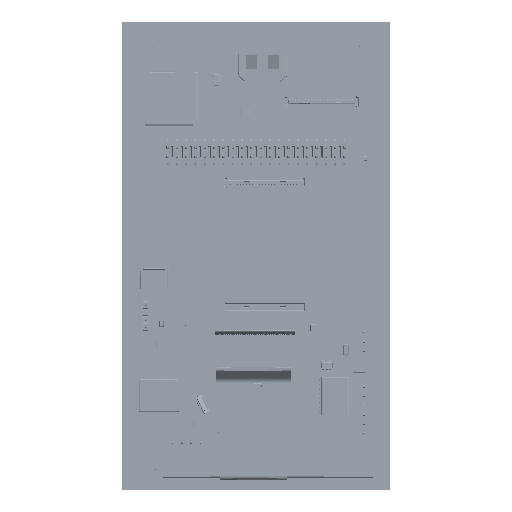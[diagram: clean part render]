
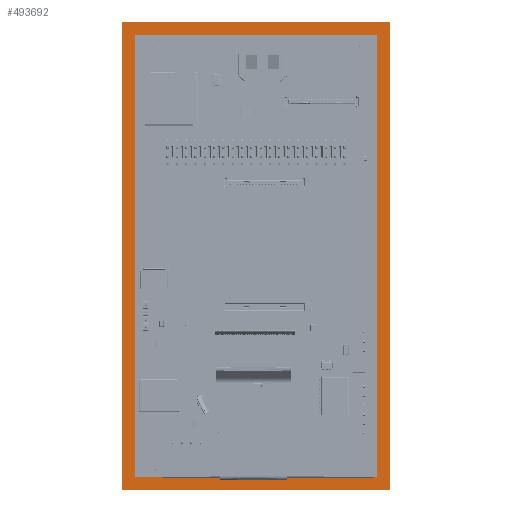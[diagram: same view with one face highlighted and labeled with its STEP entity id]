
A CAD part, top view. The second image highlights one B-rep face of the part: STEP entity #493692.
In plain terms, the highlighted planar face has unit normal (0, 0, 1).
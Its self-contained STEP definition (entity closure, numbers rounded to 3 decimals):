
#2667 = VERTEX_POINT ( 'NONE', #444690 ) ;
#11518 = LINE ( 'NONE', #352923, #662477 ) ;
#12286 = VERTEX_POINT ( 'NONE', #684603 ) ;
#13002 = DIRECTION ( 'NONE',  ( 0., 0., -1. ) ) ;
#20469 = DIRECTION ( 'NONE',  ( 0., -1., 0. ) ) ;
#25512 = LINE ( 'NONE', #683800, #384949 ) ;
#28146 = DIRECTION ( 'NONE',  ( 0., -1., 0. ) ) ;
#29556 = ORIENTED_EDGE ( 'NONE', *, *, #141131, .T. ) ;
#46878 = CIRCLE ( 'NONE', #166001, 0.5 ) ;
#53270 = EDGE_CURVE ( 'NONE', #535708, #544869, #171602, .T. ) ;
#53941 = PLANE ( 'NONE',  #282135 ) ;
#57056 = EDGE_LOOP ( 'NONE', ( #280674, #250995, #873751, #806478 ) ) ;
#59030 = CARTESIAN_POINT ( 'NONE',  ( 20.711, -36.213, -16.11 ) ) ;
#69514 = ORIENTED_EDGE ( 'NONE', *, *, #121937, .T. ) ;
#86331 = DIRECTION ( 'NONE',  ( 0., 0., 1. ) ) ;
#90553 = CARTESIAN_POINT ( 'NONE',  ( 20.711, 75.937, -16.11 ) ) ;
#92181 = VERTEX_POINT ( 'NONE', #125689 ) ;
#96565 = EDGE_CURVE ( 'NONE', #147246, #442547, #296583, .T. ) ;
#96869 = DIRECTION ( 'NONE',  ( -1., 0., 0. ) ) ;
#109731 = LINE ( 'NONE', #259158, #391613 ) ;
#121937 = EDGE_CURVE ( 'NONE', #2667, #809320, #11518, .T. ) ;
#125689 = CARTESIAN_POINT ( 'NONE',  ( 25.811, -48.063, -16.11 ) ) ;
#141131 = EDGE_CURVE ( 'NONE', #12286, #2667, #46878, .T. ) ;
#142385 = DIRECTION ( 'NONE',  ( 0., -1., 0. ) ) ;
#145598 = ORIENTED_EDGE ( 'NONE', *, *, #227634, .F. ) ;
#147246 = VERTEX_POINT ( 'NONE', #599843 ) ;
#154772 = AXIS2_PLACEMENT_3D ( 'NONE', #549660, #829799, #194513 ) ;
#166001 = AXIS2_PLACEMENT_3D ( 'NONE', #870750, #86331, #436959 ) ;
#171602 = LINE ( 'NONE', #517770, #513647 ) ;
#172712 = LINE ( 'NONE', #607206, #628209 ) ;
#194513 = DIRECTION ( 'NONE',  ( -1., 0., 0. ) ) ;
#203503 = CARTESIAN_POINT ( 'NONE',  ( -46.489, -48.063, -16.11 ) ) ;
#217519 = CARTESIAN_POINT ( 'NONE',  ( 20.711, 74.157, -16.11 ) ) ;
#218562 = VECTOR ( 'NONE', #867269, 1000. ) ;
#220738 = VERTEX_POINT ( 'NONE', #383763 ) ;
#221470 = VERTEX_POINT ( 'NONE', #575528 ) ;
#227634 = EDGE_CURVE ( 'NONE', #220738, #445121, #870756, .T. ) ;
#235712 = EDGE_CURVE ( 'NONE', #445121, #472299, #527276, .T. ) ;
#240880 = DIRECTION ( 'NONE',  ( 0., -1., 0. ) ) ;
#241186 = DIRECTION ( 'NONE',  ( -1., 0., 0. ) ) ;
#244491 = VECTOR ( 'NONE', #240880, 1000. ) ;
#249760 = CARTESIAN_POINT ( 'NONE',  ( 22.711, -36.213, -16.11 ) ) ;
#250995 = ORIENTED_EDGE ( 'NONE', *, *, #96565, .T. ) ;
#252221 = CARTESIAN_POINT ( 'NONE',  ( 26.311, -47.563, -16.11 ) ) ;
#254802 = FACE_OUTER_BOUND ( 'NONE', #718391, .T. ) ;
#259158 = CARTESIAN_POINT ( 'NONE',  ( 22.711, 74.187, -16.11 ) ) ;
#280674 = ORIENTED_EDGE ( 'NONE', *, *, #402669, .T. ) ;
#280935 = ORIENTED_EDGE ( 'NONE', *, *, #752443, .F. ) ;
#282135 = AXIS2_PLACEMENT_3D ( 'NONE', #343485, #628224, #819875 ) ;
#285176 = VECTOR ( 'NONE', #590598, 1000. ) ;
#293192 = CARTESIAN_POINT ( 'NONE',  ( -41.389, 75.937, -16.11 ) ) ;
#296583 = LINE ( 'NONE', #301177, #285176 ) ;
#301177 = CARTESIAN_POINT ( 'NONE',  ( 22.711, -36.243, -16.11 ) ) ;
#309178 = CARTESIAN_POINT ( 'NONE',  ( 22.711, -48.063, -16.11 ) ) ;
#315455 = CIRCLE ( 'NONE', #344855, 0.5 ) ;
#315538 = DIRECTION ( 'NONE',  ( -1., 0., 0. ) ) ;
#320342 = LINE ( 'NONE', #521365, #244491 ) ;
#327434 = ORIENTED_EDGE ( 'NONE', *, *, #403982, .F. ) ;
#328929 = DIRECTION ( 'NONE',  ( -1., 0., 0. ) ) ;
#334952 = ORIENTED_EDGE ( 'NONE', *, *, #235712, .F. ) ;
#339658 = EDGE_CURVE ( 'NONE', #826775, #535708, #320342, .T. ) ;
#343485 = CARTESIAN_POINT ( 'NONE',  ( 22.711, 75.937, -16.11 ) ) ;
#344855 = AXIS2_PLACEMENT_3D ( 'NONE', #638738, #526262, #241186 ) ;
#349042 = ORIENTED_EDGE ( 'NONE', *, *, #453917, .F. ) ;
#352923 = CARTESIAN_POINT ( 'NONE',  ( -46.989, 75.937, -16.11 ) ) ;
#355607 = VERTEX_POINT ( 'NONE', #802811 ) ;
#364200 = CARTESIAN_POINT ( 'NONE',  ( -41.389, -36.243, -16.11 ) ) ;
#368824 = VERTEX_POINT ( 'NONE', #203503 ) ;
#377983 = CARTESIAN_POINT ( 'NONE',  ( -41.389, 74.157, -16.11 ) ) ;
#379391 = DIRECTION ( 'NONE',  ( -1., 0., 0. ) ) ;
#383763 = CARTESIAN_POINT ( 'NONE',  ( 25.811, 79.537, -16.11 ) ) ;
#384949 = VECTOR ( 'NONE', #328929, 1000. ) ;
#391613 = VECTOR ( 'NONE', #315538, 1000. ) ;
#402669 = EDGE_CURVE ( 'NONE', #802335, #147246, #809483, .T. ) ;
#403982 = EDGE_CURVE ( 'NONE', #826775, #355607, #109731, .T. ) ;
#422740 = ORIENTED_EDGE ( 'NONE', *, *, #676634, .T. ) ;
#426351 = EDGE_CURVE ( 'NONE', #355607, #544869, #172712, .T. ) ;
#436959 = DIRECTION ( 'NONE',  ( -1., 0., 0. ) ) ;
#442547 = VERTEX_POINT ( 'NONE', #364200 ) ;
#444690 = CARTESIAN_POINT ( 'NONE',  ( -46.989, 79.037, -16.11 ) ) ;
#445121 = VERTEX_POINT ( 'NONE', #687314 ) ;
#452700 = VECTOR ( 'NONE', #751125, 1000. ) ;
#453917 = EDGE_CURVE ( 'NONE', #368824, #809320, #672833, .T. ) ;
#455880 = ORIENTED_EDGE ( 'NONE', *, *, #53270, .T. ) ;
#472299 = VERTEX_POINT ( 'NONE', #252221 ) ;
#493692 = ADVANCED_FACE ( 'NONE', ( #609820, #903581, #254802 ), #53941, .F. ) ;
#494618 = ORIENTED_EDGE ( 'NONE', *, *, #810862, .F. ) ;
#513647 = VECTOR ( 'NONE', #886177, 1000. ) ;
#517770 = CARTESIAN_POINT ( 'NONE',  ( 22.711, 74.157, -16.11 ) ) ;
#521365 = CARTESIAN_POINT ( 'NONE',  ( 20.711, 75.937, -16.11 ) ) ;
#522223 = VECTOR ( 'NONE', #379391, 1000. ) ;
#526262 = DIRECTION ( 'NONE',  ( 0., 0., -1. ) ) ;
#527276 = LINE ( 'NONE', #531846, #452700 ) ;
#531846 = CARTESIAN_POINT ( 'NONE',  ( 26.311, 75.937, -16.11 ) ) ;
#535708 = VERTEX_POINT ( 'NONE', #217519 ) ;
#544869 = VERTEX_POINT ( 'NONE', #377983 ) ;
#549660 = CARTESIAN_POINT ( 'NONE',  ( 25.811, 79.037, -16.11 ) ) ;
#554457 = ORIENTED_EDGE ( 'NONE', *, *, #339658, .T. ) ;
#556201 = LINE ( 'NONE', #293192, #218562 ) ;
#575528 = CARTESIAN_POINT ( 'NONE',  ( -41.389, -36.213, -16.11 ) ) ;
#584399 = VECTOR ( 'NONE', #754147, 1000. ) ;
#590598 = DIRECTION ( 'NONE',  ( -1., 0., 0. ) ) ;
#599843 = CARTESIAN_POINT ( 'NONE',  ( 20.711, -36.243, -16.11 ) ) ;
#607206 = CARTESIAN_POINT ( 'NONE',  ( -41.389, 75.937, -16.11 ) ) ;
#609415 = LINE ( 'NONE', #249760, #584399 ) ;
#609820 = FACE_BOUND ( 'NONE', #727895, .T. ) ;
#628209 = VECTOR ( 'NONE', #28146, 1000. ) ;
#628224 = DIRECTION ( 'NONE',  ( 0., 0., -1. ) ) ;
#638738 = CARTESIAN_POINT ( 'NONE',  ( 25.811, -47.563, -16.11 ) ) ;
#659446 = LINE ( 'NONE', #309178, #522223 ) ;
#662477 = VECTOR ( 'NONE', #142385, 1000. ) ;
#671234 = CARTESIAN_POINT ( 'NONE',  ( -46.489, -47.563, -16.11 ) ) ;
#672833 = CIRCLE ( 'NONE', #895897, 0.5 ) ;
#676634 = EDGE_CURVE ( 'NONE', #220738, #12286, #25512, .T. ) ;
#683800 = CARTESIAN_POINT ( 'NONE',  ( 22.711, 79.537, -16.11 ) ) ;
#684603 = CARTESIAN_POINT ( 'NONE',  ( -46.489, 79.537, -16.11 ) ) ;
#687314 = CARTESIAN_POINT ( 'NONE',  ( 26.311, 79.037, -16.11 ) ) ;
#718391 = EDGE_LOOP ( 'NONE', ( #29556, #69514, #349042, #280935, #494618, #334952, #145598, #422740 ) ) ;
#727895 = EDGE_LOOP ( 'NONE', ( #455880, #869452, #327434, #554457 ) ) ;
#751125 = DIRECTION ( 'NONE',  ( 0., -1., 0. ) ) ;
#752443 = EDGE_CURVE ( 'NONE', #92181, #368824, #659446, .T. ) ;
#754147 = DIRECTION ( 'NONE',  ( 1., 0., 0. ) ) ;
#769968 = CARTESIAN_POINT ( 'NONE',  ( -46.989, -47.563, -16.11 ) ) ;
#802335 = VERTEX_POINT ( 'NONE', #59030 ) ;
#802811 = CARTESIAN_POINT ( 'NONE',  ( -41.389, 74.187, -16.11 ) ) ;
#806478 = ORIENTED_EDGE ( 'NONE', *, *, #826324, .T. ) ;
#809320 = VERTEX_POINT ( 'NONE', #769968 ) ;
#809483 = LINE ( 'NONE', #90553, #909637 ) ;
#810862 = EDGE_CURVE ( 'NONE', #472299, #92181, #315455, .T. ) ;
#819875 = DIRECTION ( 'NONE',  ( -1., 0., 0. ) ) ;
#826324 = EDGE_CURVE ( 'NONE', #221470, #802335, #609415, .T. ) ;
#826775 = VERTEX_POINT ( 'NONE', #836711 ) ;
#829799 = DIRECTION ( 'NONE',  ( 0., 0., -1. ) ) ;
#836711 = CARTESIAN_POINT ( 'NONE',  ( 20.711, 74.187, -16.11 ) ) ;
#855365 = EDGE_CURVE ( 'NONE', #221470, #442547, #556201, .T. ) ;
#867269 = DIRECTION ( 'NONE',  ( 0., -1., 0. ) ) ;
#869452 = ORIENTED_EDGE ( 'NONE', *, *, #426351, .F. ) ;
#870750 = CARTESIAN_POINT ( 'NONE',  ( -46.489, 79.037, -16.11 ) ) ;
#870756 = CIRCLE ( 'NONE', #154772, 0.5 ) ;
#873751 = ORIENTED_EDGE ( 'NONE', *, *, #855365, .F. ) ;
#886177 = DIRECTION ( 'NONE',  ( -1., 0., 0. ) ) ;
#895897 = AXIS2_PLACEMENT_3D ( 'NONE', #671234, #13002, #96869 ) ;
#903581 = FACE_BOUND ( 'NONE', #57056, .T. ) ;
#909637 = VECTOR ( 'NONE', #20469, 1000. ) ;
